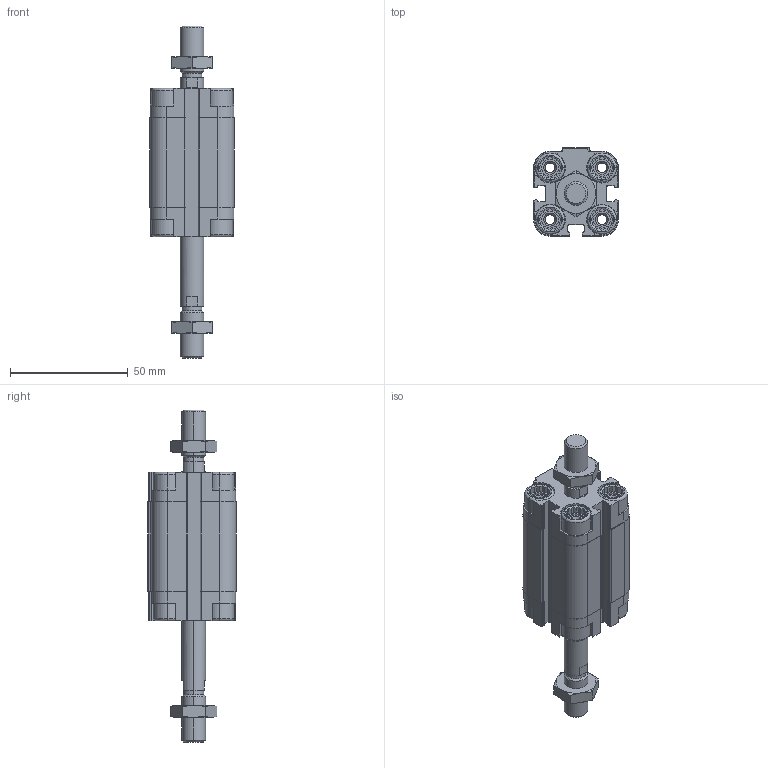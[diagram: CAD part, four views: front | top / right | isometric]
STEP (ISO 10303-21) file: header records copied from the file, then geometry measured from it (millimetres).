
FILE_DESCRIPTION (( 'STEP AP203' ), '1' );
FILE_NAME ('CDVU20-25M-P.STEP', '2020-07-21T15:08:11', ( '' ), ( '' ), 'SwSTEP 2.0', 'SolidWorks 2019', '' );
FILE_SCHEMA (( 'CONFIG_CONTROL_DESIGN' ));
Length unit declared in the file: millimetre
Products named in the file (1): CDVU20-25M-P
Bounding box: 36 x 37.5 x 141 mm (x, y, z)
Volume: 65327.5 mm3; surface area: 31431.9 mm2
Topology: 4 solids, 4 shells, 642 faces, 1674 edges, 1078 vertices
Faces by surface type: plane 374, cylinder 188, cone 64, torus 16
Entity records: 20369 total; most frequent: CARTESIAN_POINT 4535, ORIENTED_EDGE 3340, DIRECTION 3212, EDGE_CURVE 1670, AXIS2_PLACEMENT_3D 1115, VERTEX_POINT 1078, VECTOR 982, LINE 982
